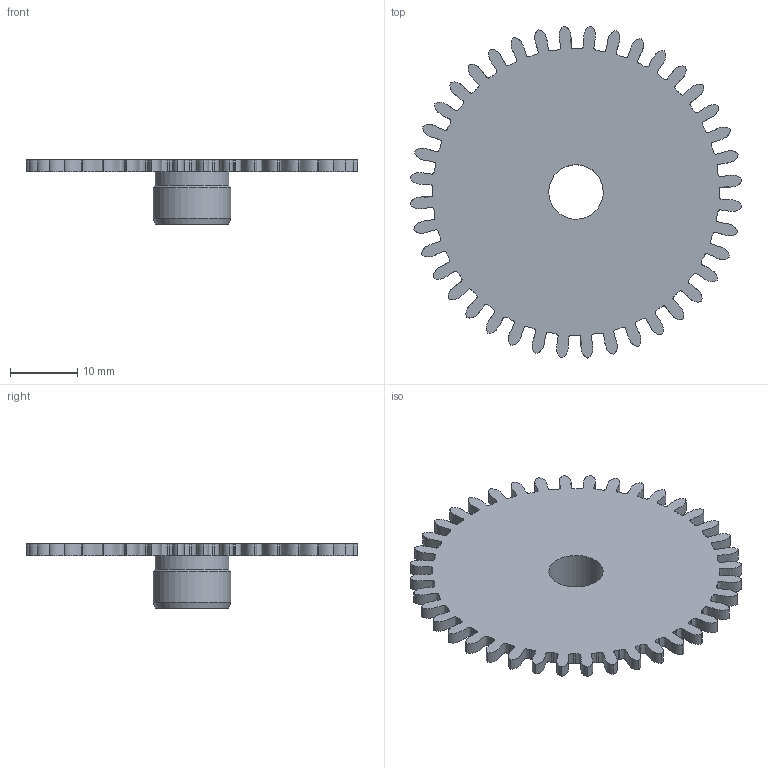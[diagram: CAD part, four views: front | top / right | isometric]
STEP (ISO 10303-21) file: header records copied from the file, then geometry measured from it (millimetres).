
FILE_DESCRIPTION(/* description */ (''),/* implementation_level */ '2;1');
FILE_NAME(/* name */ 'D:\Desktop\WatchCAdFiles\print2endTime\5.8\Solid3.stp',/* time_stamp */ '2019-05-02T17:02:32+02:00',/* author */ ('fkhad'),/* organization */ (''),/* preprocessor_version */ 'ST-DEVELOPER v17',/* originating_system */ 'Autodesk Inventor 2018',/* authorisation */ '');
FILE_SCHEMA (('AUTOMOTIVE_DESIGN { 1 0 10303 214 3 1 1 }'));
Length unit declared in the file: inch
Products named in the file (1): Solid3
Bounding box: 49.47 x 49.47 x 9.57 mm (x, y, z)
Volume: 3150.7 mm3; surface area: 4334.6 mm2
Topology: 1 solids, 1 shells, 128 faces, 379 edges, 254 vertices
Faces by surface type: bspline 80, cylinder 43, plane 3, cone 2
Full cylindrical faces by diameter (mm): 8.12 x1, 11.02 x1, 11.6 x1
Entity records: 6229 total; most frequent: CARTESIAN_POINT 3082, ORIENTED_EDGE 758, DIRECTION 411, EDGE_CURVE 379, VERTEX_POINT 254, B_SPLINE_CURVE_WITH_KNOTS 160, AXIS2_PLACEMENT_3D 143, EDGE_LOOP 131
